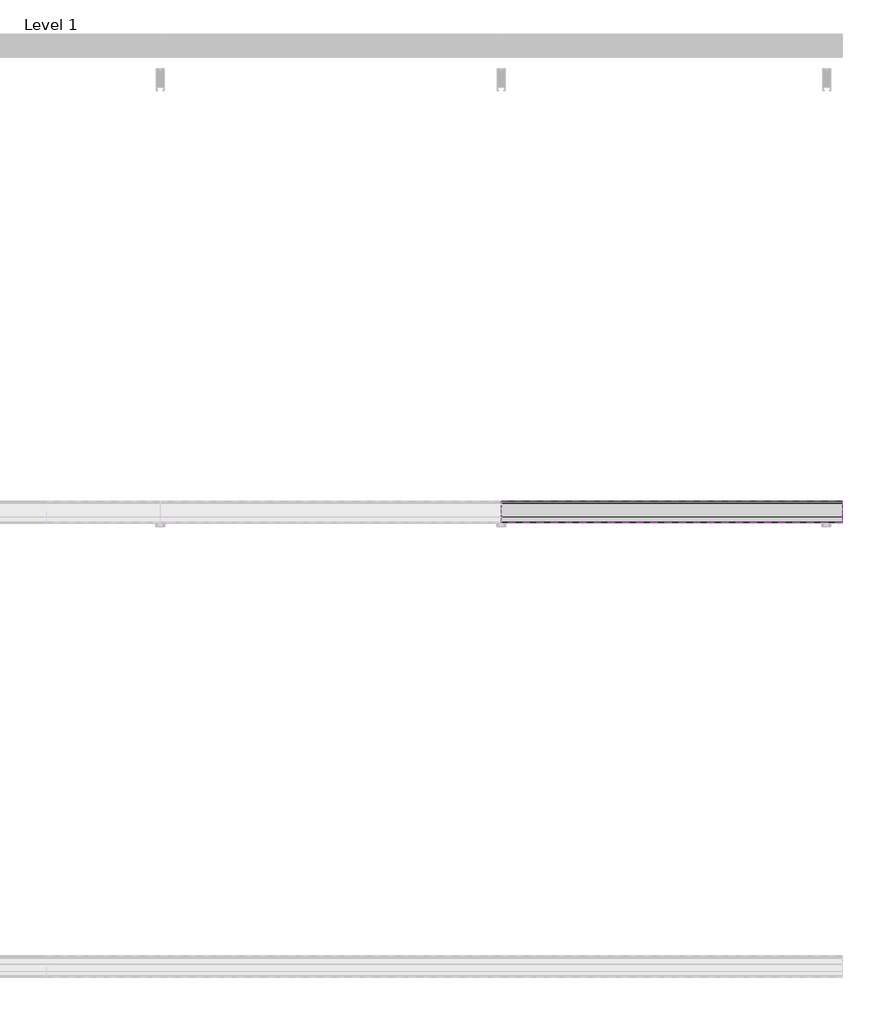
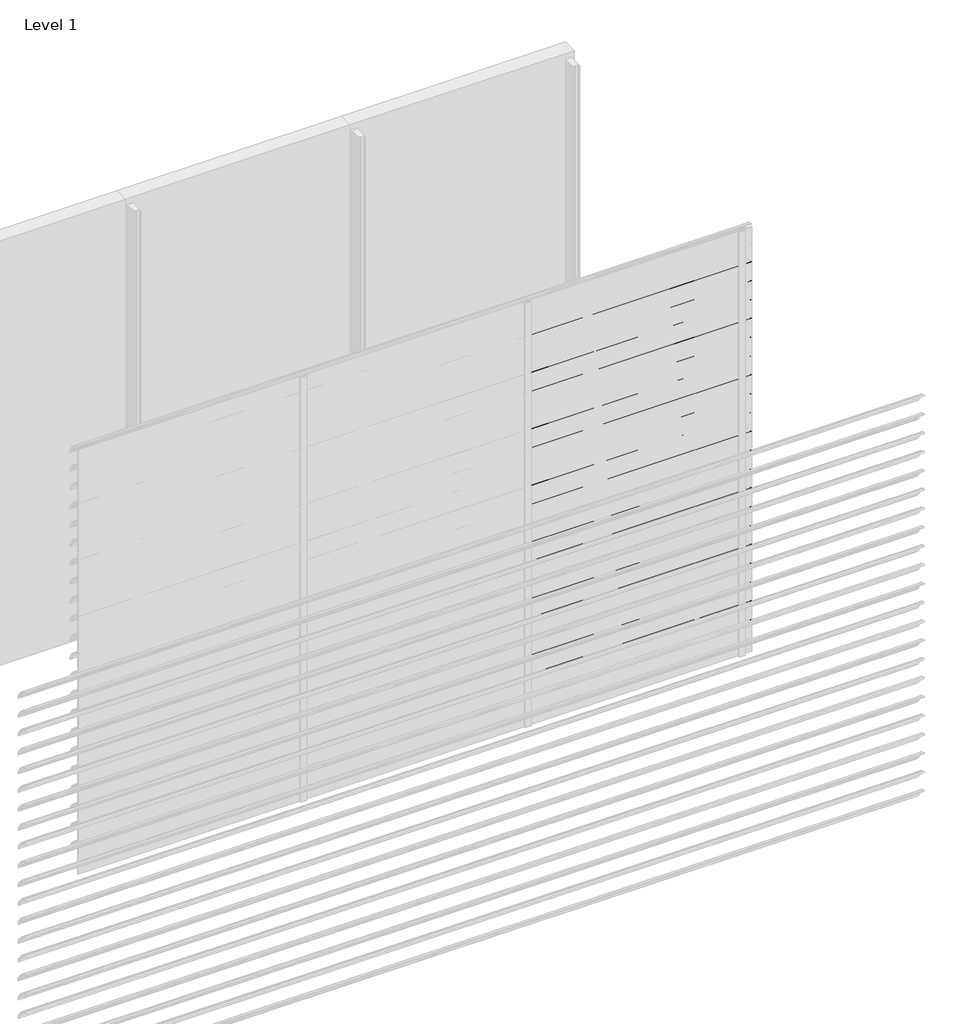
# One storey, part 35 of 57: 20 proxies.
"""IFC4 building model written with IfcOpenShell, lengths in millimetres."""

from ifc_helpers import new_model, si_unit, point, frame, frame_2d, origin, place, context, project, spatial, polyline, circle_curve, trimmed, segment, composite_curve, outline, extrude, element, save

model = new_model("IFC4")

# Units and contexts
model_context = context("Model", 3, world=origin())
ifc_project = project(units=[si_unit("LENGTHUNIT", "METRE", prefix="MILLI")], contexts=[model_context])

# Site, building, storey
site = spatial("IfcSite", under=ifc_project)
building = spatial("IfcBuilding", under=site)
storey = spatial("IfcBuildingStorey", under=building, Name="Level 1", Elevation=0.0)

# Proxies
placement = place(None, origin())
element("IfcBuildingElementProxy", 1, Name="Wall Sweeps", at=placement, inside=storey, context=model_context, shape_type="SweptSolid", body=[
    extrude(outline(composite_curve([segment(trimmed(circle_curve(frame_2d((-23993.7822526, 2750.4913792)), 4.2177474), [point((-23989.6985606, 2751.5462976))], [point((-23993.7822526, 2754.7091266))], False, "CARTESIAN"), True, "CONTINUOUS"), segment(trimmed(circle_curve(frame_2d((-24018.7150834, 2652.2536312)), 105.4456002), [point((-23993.7822526, 2754.7091266))], [point((-23971.7914298, 2746.6832099))], False, "CARTESIAN"), True, "CONTINUOUS"), segment(trimmed(circle_curve(frame_2d((-24061.7199745, 2598.0352476)), 173.7335887), [point((-23971.7914298, 2746.6832099))], [point((-23913.0720121, 2687.9637922))], False, "CARTESIAN"), True, "CONTINUOUS"), segment(trimmed(circle_curve(frame_2d((-24004.9297178, 2636.1860314)), 105.4456002), [point((-23913.0720121, 2687.9637922))], [point((-23903.6249616, 2665.4455765))], False, "CARTESIAN"), True, "CONTINUOUS"), segment(trimmed(circle_curve(frame_2d((-23907.809737, 2664.3307305)), 4.3307305), [point((-23903.6249616, 2665.4455765))], [point((-23909.0769196, 2660.189538))], False, "CARTESIAN"), True, "CONTINUOUS"), segment(polyline([(-23909.0769196, 2660.189538), (-23934.7401984, 2684.9722783)]), True, "CONTINUOUS"), segment(trimmed(circle_curve(frame_2d((-23931.3879574, 2687.2977626)), 4.079877), [point((-23934.7401984, 2684.9722783))], [point((-23930.7310597, 2691.3244091))], False, "CARTESIAN"), True, "CONTINUOUS"), segment(trimmed(circle_curve(frame_2d((-24014.6665585, 2669.2544323)), 86.7885467), [point((-23930.7310597, 2691.3244091))], [point((-23942.3028351, 2717.1683485))], True, "CARTESIAN"), True, "CONTINUOUS"), segment(polyline([(-23942.3028351, 2717.1683485), (-23940.7230099, 2719.9046861)]), True, "CONTINUOUS"), segment(trimmed(circle_curve(frame_2d((-24061.7199745, 2598.0352476)), 171.7335887), [point((-23940.7230099, 2719.9046861))], [point((-23972.7555872, 2744.9289618))], True, "CARTESIAN"), True, "CONTINUOUS"), segment(trimmed(circle_curve(frame_2d((-24018.7150834, 2652.2536312)), 103.4456002), [point((-23972.7555872, 2744.9289618))], [point((-23989.6985606, 2751.5462976))], True, "CARTESIAN"), True, "CONTINUOUS")], self_intersect=False)), frame((4500.0, 0.0, 0.0), z_axis=(1.0, 0.0, 0.0), x_axis=(0.0, 1.0, 0.0)), (0.0, 0.0, 1.0), 1500.0),
])
element("IfcBuildingElementProxy", 2, Name="Wall Sweeps", at=placement, inside=storey, context=model_context, shape_type="SweptSolid", body=[
    extrude(outline(composite_curve([segment(trimmed(circle_curve(frame_2d((-23993.7822526, 2617.4913792)), 4.2177474), [point((-23989.6985606, 2618.5462976))], [point((-23993.7822526, 2621.7091266))], False, "CARTESIAN"), True, "CONTINUOUS"), segment(trimmed(circle_curve(frame_2d((-24018.7150834, 2519.2536312)), 105.4456002), [point((-23993.7822526, 2621.7091266))], [point((-23971.7914298, 2613.6832099))], False, "CARTESIAN"), True, "CONTINUOUS"), segment(trimmed(circle_curve(frame_2d((-24061.7199745, 2465.0352476)), 173.7335887), [point((-23971.7914298, 2613.6832099))], [point((-23913.0720121, 2554.9637922))], False, "CARTESIAN"), True, "CONTINUOUS"), segment(trimmed(circle_curve(frame_2d((-24004.9297178, 2503.1860314)), 105.4456002), [point((-23913.0720121, 2554.9637922))], [point((-23903.6249616, 2532.4455765))], False, "CARTESIAN"), True, "CONTINUOUS"), segment(trimmed(circle_curve(frame_2d((-23907.809737, 2531.3307305)), 4.3307305), [point((-23903.6249616, 2532.4455765))], [point((-23909.0769196, 2527.189538))], False, "CARTESIAN"), True, "CONTINUOUS"), segment(polyline([(-23909.0769196, 2527.189538), (-23934.7401984, 2551.9722783)]), True, "CONTINUOUS"), segment(trimmed(circle_curve(frame_2d((-23931.3879574, 2554.2977626)), 4.079877), [point((-23934.7401984, 2551.9722783))], [point((-23930.7310597, 2558.3244091))], False, "CARTESIAN"), True, "CONTINUOUS"), segment(trimmed(circle_curve(frame_2d((-24014.6665585, 2536.2544323)), 86.7885467), [point((-23930.7310597, 2558.3244091))], [point((-23942.3028351, 2584.1683485))], True, "CARTESIAN"), True, "CONTINUOUS"), segment(polyline([(-23942.3028351, 2584.1683485), (-23940.7230099, 2586.9046861)]), True, "CONTINUOUS"), segment(trimmed(circle_curve(frame_2d((-24061.7199745, 2465.0352476)), 171.7335887), [point((-23940.7230099, 2586.9046861))], [point((-23972.7555872, 2611.9289618))], True, "CARTESIAN"), True, "CONTINUOUS"), segment(trimmed(circle_curve(frame_2d((-24018.7150834, 2519.2536312)), 103.4456002), [point((-23972.7555872, 2611.9289618))], [point((-23989.6985606, 2618.5462976))], True, "CARTESIAN"), True, "CONTINUOUS")], self_intersect=False)), frame((4500.0, 0.0, 0.0), z_axis=(1.0, 0.0, 0.0), x_axis=(0.0, 1.0, 0.0)), (0.0, 0.0, 1.0), 1500.0),
])
element("IfcBuildingElementProxy", 3, Name="Wall Sweeps", at=placement, inside=storey, context=model_context, shape_type="SweptSolid", body=[
    extrude(outline(composite_curve([segment(trimmed(circle_curve(frame_2d((-23993.7822526, 2484.4913792)), 4.2177474), [point((-23989.6985606, 2485.5462976))], [point((-23993.7822526, 2488.7091266))], False, "CARTESIAN"), True, "CONTINUOUS"), segment(trimmed(circle_curve(frame_2d((-24018.7150834, 2386.2536312)), 105.4456002), [point((-23993.7822526, 2488.7091266))], [point((-23971.7914298, 2480.6832099))], False, "CARTESIAN"), True, "CONTINUOUS"), segment(trimmed(circle_curve(frame_2d((-24061.7199745, 2332.0352476)), 173.7335887), [point((-23971.7914298, 2480.6832099))], [point((-23913.0720121, 2421.9637922))], False, "CARTESIAN"), True, "CONTINUOUS"), segment(trimmed(circle_curve(frame_2d((-24004.9297178, 2370.1860314)), 105.4456002), [point((-23913.0720121, 2421.9637922))], [point((-23903.6249616, 2399.4455765))], False, "CARTESIAN"), True, "CONTINUOUS"), segment(trimmed(circle_curve(frame_2d((-23907.809737, 2398.3307305)), 4.3307305), [point((-23903.6249616, 2399.4455765))], [point((-23909.0769196, 2394.189538))], False, "CARTESIAN"), True, "CONTINUOUS"), segment(polyline([(-23909.0769196, 2394.189538), (-23934.7401984, 2418.9722783)]), True, "CONTINUOUS"), segment(trimmed(circle_curve(frame_2d((-23931.3879574, 2421.2977626)), 4.079877), [point((-23934.7401984, 2418.9722783))], [point((-23930.7310597, 2425.3244091))], False, "CARTESIAN"), True, "CONTINUOUS"), segment(trimmed(circle_curve(frame_2d((-24014.6665585, 2403.2544323)), 86.7885467), [point((-23930.7310597, 2425.3244091))], [point((-23942.3028351, 2451.1683485))], True, "CARTESIAN"), True, "CONTINUOUS"), segment(polyline([(-23942.3028351, 2451.1683485), (-23940.7230099, 2453.9046861)]), True, "CONTINUOUS"), segment(trimmed(circle_curve(frame_2d((-24061.7199745, 2332.0352476)), 171.7335887), [point((-23940.7230099, 2453.9046861))], [point((-23972.7555872, 2478.9289618))], True, "CARTESIAN"), True, "CONTINUOUS"), segment(trimmed(circle_curve(frame_2d((-24018.7150834, 2386.2536312)), 103.4456002), [point((-23972.7555872, 2478.9289618))], [point((-23989.6985606, 2485.5462976))], True, "CARTESIAN"), True, "CONTINUOUS")], self_intersect=False)), frame((4500.0, 0.0, 0.0), z_axis=(1.0, 0.0, 0.0), x_axis=(0.0, 1.0, 0.0)), (0.0, 0.0, 1.0), 1500.0),
])
element("IfcBuildingElementProxy", 4, Name="Wall Sweeps", at=placement, inside=storey, context=model_context, shape_type="SweptSolid", body=[
    extrude(outline(composite_curve([segment(trimmed(circle_curve(frame_2d((-23993.7822526, 2351.4913792)), 4.2177474), [point((-23989.6985606, 2352.5462976))], [point((-23993.7822526, 2355.7091266))], False, "CARTESIAN"), True, "CONTINUOUS"), segment(trimmed(circle_curve(frame_2d((-24018.7150834, 2253.2536312)), 105.4456002), [point((-23993.7822526, 2355.7091266))], [point((-23971.7914298, 2347.6832099))], False, "CARTESIAN"), True, "CONTINUOUS"), segment(trimmed(circle_curve(frame_2d((-24061.7199745, 2199.0352476)), 173.7335887), [point((-23971.7914298, 2347.6832099))], [point((-23913.0720121, 2288.9637922))], False, "CARTESIAN"), True, "CONTINUOUS"), segment(trimmed(circle_curve(frame_2d((-24004.9297178, 2237.1860314)), 105.4456002), [point((-23913.0720121, 2288.9637922))], [point((-23903.6249616, 2266.4455765))], False, "CARTESIAN"), True, "CONTINUOUS"), segment(trimmed(circle_curve(frame_2d((-23907.809737, 2265.3307305)), 4.3307305), [point((-23903.6249616, 2266.4455765))], [point((-23909.0769196, 2261.189538))], False, "CARTESIAN"), True, "CONTINUOUS"), segment(polyline([(-23909.0769196, 2261.189538), (-23934.7401984, 2285.9722783)]), True, "CONTINUOUS"), segment(trimmed(circle_curve(frame_2d((-23931.3879574, 2288.2977626)), 4.079877), [point((-23934.7401984, 2285.9722783))], [point((-23930.7310597, 2292.3244091))], False, "CARTESIAN"), True, "CONTINUOUS"), segment(trimmed(circle_curve(frame_2d((-24014.6665585, 2270.2544323)), 86.7885467), [point((-23930.7310597, 2292.3244091))], [point((-23942.3028351, 2318.1683485))], True, "CARTESIAN"), True, "CONTINUOUS"), segment(polyline([(-23942.3028351, 2318.1683485), (-23940.7230099, 2320.9046861)]), True, "CONTINUOUS"), segment(trimmed(circle_curve(frame_2d((-24061.7199745, 2199.0352476)), 171.7335887), [point((-23940.7230099, 2320.9046861))], [point((-23972.7555872, 2345.9289618))], True, "CARTESIAN"), True, "CONTINUOUS"), segment(trimmed(circle_curve(frame_2d((-24018.7150834, 2253.2536312)), 103.4456002), [point((-23972.7555872, 2345.9289618))], [point((-23989.6985606, 2352.5462976))], True, "CARTESIAN"), True, "CONTINUOUS")], self_intersect=False)), frame((4500.0, 0.0, 0.0), z_axis=(1.0, 0.0, 0.0), x_axis=(0.0, 1.0, 0.0)), (0.0, 0.0, 1.0), 1500.0),
])
element("IfcBuildingElementProxy", 5, Name="Wall Sweeps", at=placement, inside=storey, context=model_context, shape_type="SweptSolid", body=[
    extrude(outline(composite_curve([segment(trimmed(circle_curve(frame_2d((-23993.7822526, 2218.4913792)), 4.2177474), [point((-23989.6985606, 2219.5462976))], [point((-23993.7822526, 2222.7091266))], False, "CARTESIAN"), True, "CONTINUOUS"), segment(trimmed(circle_curve(frame_2d((-24018.7150834, 2120.2536312)), 105.4456002), [point((-23993.7822526, 2222.7091266))], [point((-23971.7914298, 2214.6832099))], False, "CARTESIAN"), True, "CONTINUOUS"), segment(trimmed(circle_curve(frame_2d((-24061.7199745, 2066.0352476)), 173.7335887), [point((-23971.7914298, 2214.6832099))], [point((-23913.0720121, 2155.9637922))], False, "CARTESIAN"), True, "CONTINUOUS"), segment(trimmed(circle_curve(frame_2d((-24004.9297178, 2104.1860314)), 105.4456002), [point((-23913.0720121, 2155.9637922))], [point((-23903.6249616, 2133.4455765))], False, "CARTESIAN"), True, "CONTINUOUS"), segment(trimmed(circle_curve(frame_2d((-23907.809737, 2132.3307305)), 4.3307305), [point((-23903.6249616, 2133.4455765))], [point((-23909.0769196, 2128.189538))], False, "CARTESIAN"), True, "CONTINUOUS"), segment(polyline([(-23909.0769196, 2128.189538), (-23934.7401984, 2152.9722783)]), True, "CONTINUOUS"), segment(trimmed(circle_curve(frame_2d((-23931.3879574, 2155.2977626)), 4.079877), [point((-23934.7401984, 2152.9722783))], [point((-23930.7310597, 2159.3244091))], False, "CARTESIAN"), True, "CONTINUOUS"), segment(trimmed(circle_curve(frame_2d((-24014.6665585, 2137.2544323)), 86.7885467), [point((-23930.7310597, 2159.3244091))], [point((-23942.3028351, 2185.1683485))], True, "CARTESIAN"), True, "CONTINUOUS"), segment(polyline([(-23942.3028351, 2185.1683485), (-23940.7230099, 2187.9046861)]), True, "CONTINUOUS"), segment(trimmed(circle_curve(frame_2d((-24061.7199745, 2066.0352476)), 171.7335887), [point((-23940.7230099, 2187.9046861))], [point((-23972.7555872, 2212.9289618))], True, "CARTESIAN"), True, "CONTINUOUS"), segment(trimmed(circle_curve(frame_2d((-24018.7150834, 2120.2536312)), 103.4456002), [point((-23972.7555872, 2212.9289618))], [point((-23989.6985606, 2219.5462976))], True, "CARTESIAN"), True, "CONTINUOUS")], self_intersect=False)), frame((4500.0, 0.0, 0.0), z_axis=(1.0, 0.0, 0.0), x_axis=(0.0, 1.0, 0.0)), (0.0, 0.0, 1.0), 1500.0),
])
element("IfcBuildingElementProxy", 6, Name="Wall Sweeps", at=placement, inside=storey, context=model_context, shape_type="SweptSolid", body=[
    extrude(outline(composite_curve([segment(trimmed(circle_curve(frame_2d((-23993.7822526, 2085.4913792)), 4.2177474), [point((-23989.6985606, 2086.5462976))], [point((-23993.7822526, 2089.7091266))], False, "CARTESIAN"), True, "CONTINUOUS"), segment(trimmed(circle_curve(frame_2d((-24018.7150834, 1987.2536312)), 105.4456002), [point((-23993.7822526, 2089.7091266))], [point((-23971.7914298, 2081.6832099))], False, "CARTESIAN"), True, "CONTINUOUS"), segment(trimmed(circle_curve(frame_2d((-24061.7199745, 1933.0352476)), 173.7335887), [point((-23971.7914298, 2081.6832099))], [point((-23913.0720121, 2022.9637922))], False, "CARTESIAN"), True, "CONTINUOUS"), segment(trimmed(circle_curve(frame_2d((-24004.9297178, 1971.1860314)), 105.4456002), [point((-23913.0720121, 2022.9637922))], [point((-23903.6249616, 2000.4455765))], False, "CARTESIAN"), True, "CONTINUOUS"), segment(trimmed(circle_curve(frame_2d((-23907.809737, 1999.3307305)), 4.3307305), [point((-23903.6249616, 2000.4455765))], [point((-23909.0769196, 1995.189538))], False, "CARTESIAN"), True, "CONTINUOUS"), segment(polyline([(-23909.0769196, 1995.189538), (-23934.7401984, 2019.9722783)]), True, "CONTINUOUS"), segment(trimmed(circle_curve(frame_2d((-23931.3879574, 2022.2977626)), 4.079877), [point((-23934.7401984, 2019.9722783))], [point((-23930.7310597, 2026.3244091))], False, "CARTESIAN"), True, "CONTINUOUS"), segment(trimmed(circle_curve(frame_2d((-24014.6665585, 2004.2544323)), 86.7885467), [point((-23930.7310597, 2026.3244091))], [point((-23942.3028351, 2052.1683485))], True, "CARTESIAN"), True, "CONTINUOUS"), segment(polyline([(-23942.3028351, 2052.1683485), (-23940.7230099, 2054.9046861)]), True, "CONTINUOUS"), segment(trimmed(circle_curve(frame_2d((-24061.7199745, 1933.0352476)), 171.7335887), [point((-23940.7230099, 2054.9046861))], [point((-23972.7555872, 2079.9289618))], True, "CARTESIAN"), True, "CONTINUOUS"), segment(trimmed(circle_curve(frame_2d((-24018.7150834, 1987.2536312)), 103.4456002), [point((-23972.7555872, 2079.9289618))], [point((-23989.6985606, 2086.5462976))], True, "CARTESIAN"), True, "CONTINUOUS")], self_intersect=False)), frame((4500.0, 0.0, 0.0), z_axis=(1.0, 0.0, 0.0), x_axis=(0.0, 1.0, 0.0)), (0.0, 0.0, 1.0), 1500.0),
])
element("IfcBuildingElementProxy", 7, Name="Wall Sweeps", at=placement, inside=storey, context=model_context, shape_type="SweptSolid", body=[
    extrude(outline(composite_curve([segment(trimmed(circle_curve(frame_2d((-23993.7822526, 1952.4913792)), 4.2177474), [point((-23989.6985606, 1953.5462976))], [point((-23993.7822526, 1956.7091266))], False, "CARTESIAN"), True, "CONTINUOUS"), segment(trimmed(circle_curve(frame_2d((-24018.7150834, 1854.2536312)), 105.4456002), [point((-23993.7822526, 1956.7091266))], [point((-23971.7914298, 1948.6832099))], False, "CARTESIAN"), True, "CONTINUOUS"), segment(trimmed(circle_curve(frame_2d((-24061.7199745, 1800.0352476)), 173.7335887), [point((-23971.7914298, 1948.6832099))], [point((-23913.0720121, 1889.9637922))], False, "CARTESIAN"), True, "CONTINUOUS"), segment(trimmed(circle_curve(frame_2d((-24004.9297178, 1838.1860314)), 105.4456002), [point((-23913.0720121, 1889.9637922))], [point((-23903.6249616, 1867.4455765))], False, "CARTESIAN"), True, "CONTINUOUS"), segment(trimmed(circle_curve(frame_2d((-23907.809737, 1866.3307305)), 4.3307305), [point((-23903.6249616, 1867.4455765))], [point((-23909.0769196, 1862.189538))], False, "CARTESIAN"), True, "CONTINUOUS"), segment(polyline([(-23909.0769196, 1862.189538), (-23934.7401984, 1886.9722783)]), True, "CONTINUOUS"), segment(trimmed(circle_curve(frame_2d((-23931.3879574, 1889.2977626)), 4.079877), [point((-23934.7401984, 1886.9722783))], [point((-23930.7310597, 1893.3244091))], False, "CARTESIAN"), True, "CONTINUOUS"), segment(trimmed(circle_curve(frame_2d((-24014.6665585, 1871.2544323)), 86.7885467), [point((-23930.7310597, 1893.3244091))], [point((-23942.3028351, 1919.1683485))], True, "CARTESIAN"), True, "CONTINUOUS"), segment(polyline([(-23942.3028351, 1919.1683485), (-23940.7230099, 1921.9046861)]), True, "CONTINUOUS"), segment(trimmed(circle_curve(frame_2d((-24061.7199745, 1800.0352476)), 171.7335887), [point((-23940.7230099, 1921.9046861))], [point((-23972.7555872, 1946.9289618))], True, "CARTESIAN"), True, "CONTINUOUS"), segment(trimmed(circle_curve(frame_2d((-24018.7150834, 1854.2536312)), 103.4456002), [point((-23972.7555872, 1946.9289618))], [point((-23989.6985606, 1953.5462976))], True, "CARTESIAN"), True, "CONTINUOUS")], self_intersect=False)), frame((4500.0, 0.0, 0.0), z_axis=(1.0, 0.0, 0.0), x_axis=(0.0, 1.0, 0.0)), (0.0, 0.0, 1.0), 1500.0),
])
element("IfcBuildingElementProxy", 8, Name="Wall Sweeps", at=placement, inside=storey, context=model_context, shape_type="SweptSolid", body=[
    extrude(outline(composite_curve([segment(trimmed(circle_curve(frame_2d((-23993.7822526, 1819.4913792)), 4.2177474), [point((-23989.6985606, 1820.5462976))], [point((-23993.7822526, 1823.7091266))], False, "CARTESIAN"), True, "CONTINUOUS"), segment(trimmed(circle_curve(frame_2d((-24018.7150834, 1721.2536312)), 105.4456002), [point((-23993.7822526, 1823.7091266))], [point((-23971.7914298, 1815.6832099))], False, "CARTESIAN"), True, "CONTINUOUS"), segment(trimmed(circle_curve(frame_2d((-24061.7199745, 1667.0352476)), 173.7335887), [point((-23971.7914298, 1815.6832099))], [point((-23913.0720121, 1756.9637922))], False, "CARTESIAN"), True, "CONTINUOUS"), segment(trimmed(circle_curve(frame_2d((-24004.9297178, 1705.1860314)), 105.4456002), [point((-23913.0720121, 1756.9637922))], [point((-23903.6249616, 1734.4455765))], False, "CARTESIAN"), True, "CONTINUOUS"), segment(trimmed(circle_curve(frame_2d((-23907.809737, 1733.3307305)), 4.3307305), [point((-23903.6249616, 1734.4455765))], [point((-23909.0769196, 1729.189538))], False, "CARTESIAN"), True, "CONTINUOUS"), segment(polyline([(-23909.0769196, 1729.189538), (-23934.7401984, 1753.9722783)]), True, "CONTINUOUS"), segment(trimmed(circle_curve(frame_2d((-23931.3879574, 1756.2977626)), 4.079877), [point((-23934.7401984, 1753.9722783))], [point((-23930.7310597, 1760.3244091))], False, "CARTESIAN"), True, "CONTINUOUS"), segment(trimmed(circle_curve(frame_2d((-24014.6665585, 1738.2544323)), 86.7885467), [point((-23930.7310597, 1760.3244091))], [point((-23942.3028351, 1786.1683485))], True, "CARTESIAN"), True, "CONTINUOUS"), segment(polyline([(-23942.3028351, 1786.1683485), (-23940.7230099, 1788.9046861)]), True, "CONTINUOUS"), segment(trimmed(circle_curve(frame_2d((-24061.7199745, 1667.0352476)), 171.7335887), [point((-23940.7230099, 1788.9046861))], [point((-23972.7555872, 1813.9289618))], True, "CARTESIAN"), True, "CONTINUOUS"), segment(trimmed(circle_curve(frame_2d((-24018.7150834, 1721.2536312)), 103.4456002), [point((-23972.7555872, 1813.9289618))], [point((-23989.6985606, 1820.5462976))], True, "CARTESIAN"), True, "CONTINUOUS")], self_intersect=False)), frame((4500.0, 0.0, 0.0), z_axis=(1.0, 0.0, 0.0), x_axis=(0.0, 1.0, 0.0)), (0.0, 0.0, 1.0), 1500.0),
])
element("IfcBuildingElementProxy", 9, Name="Wall Sweeps", at=placement, inside=storey, context=model_context, shape_type="SweptSolid", body=[
    extrude(outline(composite_curve([segment(trimmed(circle_curve(frame_2d((-23993.7822526, 1686.4913792)), 4.2177474), [point((-23989.6985606, 1687.5462976))], [point((-23993.7822526, 1690.7091266))], False, "CARTESIAN"), True, "CONTINUOUS"), segment(trimmed(circle_curve(frame_2d((-24018.7150834, 1588.2536312)), 105.4456002), [point((-23993.7822526, 1690.7091266))], [point((-23971.7914298, 1682.6832099))], False, "CARTESIAN"), True, "CONTINUOUS"), segment(trimmed(circle_curve(frame_2d((-24061.7199745, 1534.0352476)), 173.7335887), [point((-23971.7914298, 1682.6832099))], [point((-23913.0720121, 1623.9637922))], False, "CARTESIAN"), True, "CONTINUOUS"), segment(trimmed(circle_curve(frame_2d((-24004.9297178, 1572.1860314)), 105.4456002), [point((-23913.0720121, 1623.9637922))], [point((-23903.6249616, 1601.4455765))], False, "CARTESIAN"), True, "CONTINUOUS"), segment(trimmed(circle_curve(frame_2d((-23907.809737, 1600.3307305)), 4.3307305), [point((-23903.6249616, 1601.4455765))], [point((-23909.0769196, 1596.189538))], False, "CARTESIAN"), True, "CONTINUOUS"), segment(polyline([(-23909.0769196, 1596.189538), (-23934.7401984, 1620.9722783)]), True, "CONTINUOUS"), segment(trimmed(circle_curve(frame_2d((-23931.3879574, 1623.2977626)), 4.079877), [point((-23934.7401984, 1620.9722783))], [point((-23930.7310597, 1627.3244091))], False, "CARTESIAN"), True, "CONTINUOUS"), segment(trimmed(circle_curve(frame_2d((-24014.6665585, 1605.2544323)), 86.7885467), [point((-23930.7310597, 1627.3244091))], [point((-23942.3028351, 1653.1683485))], True, "CARTESIAN"), True, "CONTINUOUS"), segment(polyline([(-23942.3028351, 1653.1683485), (-23940.7230099, 1655.9046861)]), True, "CONTINUOUS"), segment(trimmed(circle_curve(frame_2d((-24061.7199745, 1534.0352476)), 171.7335887), [point((-23940.7230099, 1655.9046861))], [point((-23972.7555872, 1680.9289618))], True, "CARTESIAN"), True, "CONTINUOUS"), segment(trimmed(circle_curve(frame_2d((-24018.7150834, 1588.2536312)), 103.4456002), [point((-23972.7555872, 1680.9289618))], [point((-23989.6985606, 1687.5462976))], True, "CARTESIAN"), True, "CONTINUOUS")], self_intersect=False)), frame((4500.0, 0.0, 0.0), z_axis=(1.0, 0.0, 0.0), x_axis=(0.0, 1.0, 0.0)), (0.0, 0.0, 1.0), 1500.0),
])
element("IfcBuildingElementProxy", 10, Name="Wall Sweeps", at=placement, inside=storey, context=model_context, shape_type="SweptSolid", body=[
    extrude(outline(composite_curve([segment(trimmed(circle_curve(frame_2d((-23993.7822526, 1553.4913792)), 4.2177474), [point((-23989.6985606, 1554.5462976))], [point((-23993.7822526, 1557.7091266))], False, "CARTESIAN"), True, "CONTINUOUS"), segment(trimmed(circle_curve(frame_2d((-24018.7150834, 1455.2536312)), 105.4456002), [point((-23993.7822526, 1557.7091266))], [point((-23971.7914298, 1549.6832099))], False, "CARTESIAN"), True, "CONTINUOUS"), segment(trimmed(circle_curve(frame_2d((-24061.7199745, 1401.0352476)), 173.7335887), [point((-23971.7914298, 1549.6832099))], [point((-23913.0720121, 1490.9637922))], False, "CARTESIAN"), True, "CONTINUOUS"), segment(trimmed(circle_curve(frame_2d((-24004.9297178, 1439.1860314)), 105.4456002), [point((-23913.0720121, 1490.9637922))], [point((-23903.6249616, 1468.4455765))], False, "CARTESIAN"), True, "CONTINUOUS"), segment(trimmed(circle_curve(frame_2d((-23907.809737, 1467.3307305)), 4.3307305), [point((-23903.6249616, 1468.4455765))], [point((-23909.0769196, 1463.189538))], False, "CARTESIAN"), True, "CONTINUOUS"), segment(polyline([(-23909.0769196, 1463.189538), (-23934.7401984, 1487.9722783)]), True, "CONTINUOUS"), segment(trimmed(circle_curve(frame_2d((-23931.3879574, 1490.2977626)), 4.079877), [point((-23934.7401984, 1487.9722783))], [point((-23930.7310597, 1494.3244091))], False, "CARTESIAN"), True, "CONTINUOUS"), segment(trimmed(circle_curve(frame_2d((-24014.6665585, 1472.2544323)), 86.7885467), [point((-23930.7310597, 1494.3244091))], [point((-23942.3028351, 1520.1683485))], True, "CARTESIAN"), True, "CONTINUOUS"), segment(polyline([(-23942.3028351, 1520.1683485), (-23940.7230099, 1522.9046861)]), True, "CONTINUOUS"), segment(trimmed(circle_curve(frame_2d((-24061.7199745, 1401.0352476)), 171.7335887), [point((-23940.7230099, 1522.9046861))], [point((-23972.7555872, 1547.9289618))], True, "CARTESIAN"), True, "CONTINUOUS"), segment(trimmed(circle_curve(frame_2d((-24018.7150834, 1455.2536312)), 103.4456002), [point((-23972.7555872, 1547.9289618))], [point((-23989.6985606, 1554.5462976))], True, "CARTESIAN"), True, "CONTINUOUS")], self_intersect=False)), frame((4500.0, 0.0, 0.0), z_axis=(1.0, 0.0, 0.0), x_axis=(0.0, 1.0, 0.0)), (0.0, 0.0, 1.0), 1500.0),
])
element("IfcBuildingElementProxy", 11, Name="Wall Sweeps", at=placement, inside=storey, context=model_context, shape_type="SweptSolid", body=[
    extrude(outline(composite_curve([segment(trimmed(circle_curve(frame_2d((-23993.7822526, 1420.4913792)), 4.2177474), [point((-23989.6985606, 1421.5462976))], [point((-23993.7822526, 1424.7091266))], False, "CARTESIAN"), True, "CONTINUOUS"), segment(trimmed(circle_curve(frame_2d((-24018.7150834, 1322.2536312)), 105.4456002), [point((-23993.7822526, 1424.7091266))], [point((-23971.7914298, 1416.6832099))], False, "CARTESIAN"), True, "CONTINUOUS"), segment(trimmed(circle_curve(frame_2d((-24061.7199745, 1268.0352476)), 173.7335887), [point((-23971.7914298, 1416.6832099))], [point((-23913.0720121, 1357.9637922))], False, "CARTESIAN"), True, "CONTINUOUS"), segment(trimmed(circle_curve(frame_2d((-24004.9297178, 1306.1860314)), 105.4456002), [point((-23913.0720121, 1357.9637922))], [point((-23903.6249616, 1335.4455765))], False, "CARTESIAN"), True, "CONTINUOUS"), segment(trimmed(circle_curve(frame_2d((-23907.809737, 1334.3307305)), 4.3307305), [point((-23903.6249616, 1335.4455765))], [point((-23909.0769196, 1330.189538))], False, "CARTESIAN"), True, "CONTINUOUS"), segment(polyline([(-23909.0769196, 1330.189538), (-23934.7401984, 1354.9722783)]), True, "CONTINUOUS"), segment(trimmed(circle_curve(frame_2d((-23931.3879574, 1357.2977626)), 4.079877), [point((-23934.7401984, 1354.9722783))], [point((-23930.7310597, 1361.3244091))], False, "CARTESIAN"), True, "CONTINUOUS"), segment(trimmed(circle_curve(frame_2d((-24014.6665585, 1339.2544323)), 86.7885467), [point((-23930.7310597, 1361.3244091))], [point((-23942.3028351, 1387.1683485))], True, "CARTESIAN"), True, "CONTINUOUS"), segment(polyline([(-23942.3028351, 1387.1683485), (-23940.7230099, 1389.9046861)]), True, "CONTINUOUS"), segment(trimmed(circle_curve(frame_2d((-24061.7199745, 1268.0352476)), 171.7335887), [point((-23940.7230099, 1389.9046861))], [point((-23972.7555872, 1414.9289618))], True, "CARTESIAN"), True, "CONTINUOUS"), segment(trimmed(circle_curve(frame_2d((-24018.7150834, 1322.2536312)), 103.4456002), [point((-23972.7555872, 1414.9289618))], [point((-23989.6985606, 1421.5462976))], True, "CARTESIAN"), True, "CONTINUOUS")], self_intersect=False)), frame((4500.0, 0.0, 0.0), z_axis=(1.0, 0.0, 0.0), x_axis=(0.0, 1.0, 0.0)), (0.0, 0.0, 1.0), 1500.0),
])
element("IfcBuildingElementProxy", 12, Name="Wall Sweeps", at=placement, inside=storey, context=model_context, shape_type="SweptSolid", body=[
    extrude(outline(composite_curve([segment(trimmed(circle_curve(frame_2d((-23993.7822526, 1287.4913792)), 4.2177474), [point((-23989.6985606, 1288.5462976))], [point((-23993.7822526, 1291.7091266))], False, "CARTESIAN"), True, "CONTINUOUS"), segment(trimmed(circle_curve(frame_2d((-24018.7150834, 1189.2536312)), 105.4456002), [point((-23993.7822526, 1291.7091266))], [point((-23971.7914298, 1283.6832099))], False, "CARTESIAN"), True, "CONTINUOUS"), segment(trimmed(circle_curve(frame_2d((-24061.7199745, 1135.0352476)), 173.7335887), [point((-23971.7914298, 1283.6832099))], [point((-23913.0720121, 1224.9637922))], False, "CARTESIAN"), True, "CONTINUOUS"), segment(trimmed(circle_curve(frame_2d((-24004.9297178, 1173.1860314)), 105.4456002), [point((-23913.0720121, 1224.9637922))], [point((-23903.6249616, 1202.4455765))], False, "CARTESIAN"), True, "CONTINUOUS"), segment(trimmed(circle_curve(frame_2d((-23907.809737, 1201.3307305)), 4.3307305), [point((-23903.6249616, 1202.4455765))], [point((-23909.0769196, 1197.189538))], False, "CARTESIAN"), True, "CONTINUOUS"), segment(polyline([(-23909.0769196, 1197.189538), (-23934.7401984, 1221.9722783)]), True, "CONTINUOUS"), segment(trimmed(circle_curve(frame_2d((-23931.3879574, 1224.2977626)), 4.079877), [point((-23934.7401984, 1221.9722783))], [point((-23930.7310597, 1228.3244091))], False, "CARTESIAN"), True, "CONTINUOUS"), segment(trimmed(circle_curve(frame_2d((-24014.6665585, 1206.2544323)), 86.7885467), [point((-23930.7310597, 1228.3244091))], [point((-23942.3028351, 1254.1683485))], True, "CARTESIAN"), True, "CONTINUOUS"), segment(polyline([(-23942.3028351, 1254.1683485), (-23940.7230099, 1256.9046861)]), True, "CONTINUOUS"), segment(trimmed(circle_curve(frame_2d((-24061.7199745, 1135.0352476)), 171.7335887), [point((-23940.7230099, 1256.9046861))], [point((-23972.7555872, 1281.9289618))], True, "CARTESIAN"), True, "CONTINUOUS"), segment(trimmed(circle_curve(frame_2d((-24018.7150834, 1189.2536312)), 103.4456002), [point((-23972.7555872, 1281.9289618))], [point((-23989.6985606, 1288.5462976))], True, "CARTESIAN"), True, "CONTINUOUS")], self_intersect=False)), frame((4500.0, 0.0, 0.0), z_axis=(1.0, 0.0, 0.0), x_axis=(0.0, 1.0, 0.0)), (0.0, 0.0, 1.0), 1500.0),
])
element("IfcBuildingElementProxy", 13, Name="Wall Sweeps", at=placement, inside=storey, context=model_context, shape_type="SweptSolid", body=[
    extrude(outline(composite_curve([segment(trimmed(circle_curve(frame_2d((-23993.7822526, 1154.4913792)), 4.2177474), [point((-23989.6985606, 1155.5462976))], [point((-23993.7822526, 1158.7091266))], False, "CARTESIAN"), True, "CONTINUOUS"), segment(trimmed(circle_curve(frame_2d((-24018.7150834, 1056.2536312)), 105.4456002), [point((-23993.7822526, 1158.7091266))], [point((-23971.7914298, 1150.6832099))], False, "CARTESIAN"), True, "CONTINUOUS"), segment(trimmed(circle_curve(frame_2d((-24061.7199745, 1002.0352476)), 173.7335887), [point((-23971.7914298, 1150.6832099))], [point((-23913.0720121, 1091.9637922))], False, "CARTESIAN"), True, "CONTINUOUS"), segment(trimmed(circle_curve(frame_2d((-24004.9297178, 1040.1860314)), 105.4456002), [point((-23913.0720121, 1091.9637922))], [point((-23903.6249616, 1069.4455765))], False, "CARTESIAN"), True, "CONTINUOUS"), segment(trimmed(circle_curve(frame_2d((-23907.809737, 1068.3307305)), 4.3307305), [point((-23903.6249616, 1069.4455765))], [point((-23909.0769196, 1064.189538))], False, "CARTESIAN"), True, "CONTINUOUS"), segment(polyline([(-23909.0769196, 1064.189538), (-23934.7401984, 1088.9722783)]), True, "CONTINUOUS"), segment(trimmed(circle_curve(frame_2d((-23931.3879574, 1091.2977626)), 4.079877), [point((-23934.7401984, 1088.9722783))], [point((-23930.7310597, 1095.3244091))], False, "CARTESIAN"), True, "CONTINUOUS"), segment(trimmed(circle_curve(frame_2d((-24014.6665585, 1073.2544323)), 86.7885467), [point((-23930.7310597, 1095.3244091))], [point((-23942.3028351, 1121.1683485))], True, "CARTESIAN"), True, "CONTINUOUS"), segment(polyline([(-23942.3028351, 1121.1683485), (-23940.7230099, 1123.9046861)]), True, "CONTINUOUS"), segment(trimmed(circle_curve(frame_2d((-24061.7199745, 1002.0352476)), 171.7335887), [point((-23940.7230099, 1123.9046861))], [point((-23972.7555872, 1148.9289618))], True, "CARTESIAN"), True, "CONTINUOUS"), segment(trimmed(circle_curve(frame_2d((-24018.7150834, 1056.2536312)), 103.4456002), [point((-23972.7555872, 1148.9289618))], [point((-23989.6985606, 1155.5462976))], True, "CARTESIAN"), True, "CONTINUOUS")], self_intersect=False)), frame((4500.0, 0.0, 0.0), z_axis=(1.0, 0.0, 0.0), x_axis=(0.0, 1.0, 0.0)), (0.0, 0.0, 1.0), 1500.0),
])
element("IfcBuildingElementProxy", 14, Name="Wall Sweeps", at=placement, inside=storey, context=model_context, shape_type="SweptSolid", body=[
    extrude(outline(composite_curve([segment(trimmed(circle_curve(frame_2d((-23993.7822526, 1021.4913792)), 4.2177474), [point((-23989.6985606, 1022.5462976))], [point((-23993.7822526, 1025.7091266))], False, "CARTESIAN"), True, "CONTINUOUS"), segment(trimmed(circle_curve(frame_2d((-24018.7150834, 923.2536312)), 105.4456002), [point((-23993.7822526, 1025.7091266))], [point((-23971.7914298, 1017.6832099))], False, "CARTESIAN"), True, "CONTINUOUS"), segment(trimmed(circle_curve(frame_2d((-24061.7199745, 869.0352476)), 173.7335887), [point((-23971.7914298, 1017.6832099))], [point((-23913.0720121, 958.9637922))], False, "CARTESIAN"), True, "CONTINUOUS"), segment(trimmed(circle_curve(frame_2d((-24004.9297178, 907.1860314)), 105.4456002), [point((-23913.0720121, 958.9637922))], [point((-23903.6249616, 936.4455765))], False, "CARTESIAN"), True, "CONTINUOUS"), segment(trimmed(circle_curve(frame_2d((-23907.809737, 935.3307305)), 4.3307305), [point((-23903.6249616, 936.4455765))], [point((-23909.0769196, 931.189538))], False, "CARTESIAN"), True, "CONTINUOUS"), segment(polyline([(-23909.0769196, 931.189538), (-23934.7401984, 955.9722783)]), True, "CONTINUOUS"), segment(trimmed(circle_curve(frame_2d((-23931.3879574, 958.2977626)), 4.079877), [point((-23934.7401984, 955.9722783))], [point((-23930.7310597, 962.3244091))], False, "CARTESIAN"), True, "CONTINUOUS"), segment(trimmed(circle_curve(frame_2d((-24014.6665585, 940.2544323)), 86.7885467), [point((-23930.7310597, 962.3244091))], [point((-23942.3028351, 988.1683485))], True, "CARTESIAN"), True, "CONTINUOUS"), segment(polyline([(-23942.3028351, 988.1683485), (-23940.7230099, 990.9046861)]), True, "CONTINUOUS"), segment(trimmed(circle_curve(frame_2d((-24061.7199745, 869.0352476)), 171.7335887), [point((-23940.7230099, 990.9046861))], [point((-23972.7555872, 1015.9289618))], True, "CARTESIAN"), True, "CONTINUOUS"), segment(trimmed(circle_curve(frame_2d((-24018.7150834, 923.2536312)), 103.4456002), [point((-23972.7555872, 1015.9289618))], [point((-23989.6985606, 1022.5462976))], True, "CARTESIAN"), True, "CONTINUOUS")], self_intersect=False)), frame((4500.0, 0.0, 0.0), z_axis=(1.0, 0.0, 0.0), x_axis=(0.0, 1.0, 0.0)), (0.0, 0.0, 1.0), 1500.0),
])
element("IfcBuildingElementProxy", 15, Name="Wall Sweeps", at=placement, inside=storey, context=model_context, shape_type="SweptSolid", body=[
    extrude(outline(composite_curve([segment(trimmed(circle_curve(frame_2d((-23993.7822526, 888.4913792)), 4.2177474), [point((-23989.6985606, 889.5462976))], [point((-23993.7822526, 892.7091266))], False, "CARTESIAN"), True, "CONTINUOUS"), segment(trimmed(circle_curve(frame_2d((-24018.7150834, 790.2536312)), 105.4456002), [point((-23993.7822526, 892.7091266))], [point((-23971.7914298, 884.6832099))], False, "CARTESIAN"), True, "CONTINUOUS"), segment(trimmed(circle_curve(frame_2d((-24061.7199745, 736.0352476)), 173.7335887), [point((-23971.7914298, 884.6832099))], [point((-23913.0720121, 825.9637922))], False, "CARTESIAN"), True, "CONTINUOUS"), segment(trimmed(circle_curve(frame_2d((-24004.9297178, 774.1860314)), 105.4456002), [point((-23913.0720121, 825.9637922))], [point((-23903.6249616, 803.4455765))], False, "CARTESIAN"), True, "CONTINUOUS"), segment(trimmed(circle_curve(frame_2d((-23907.809737, 802.3307305)), 4.3307305), [point((-23903.6249616, 803.4455765))], [point((-23909.0769196, 798.189538))], False, "CARTESIAN"), True, "CONTINUOUS"), segment(polyline([(-23909.0769196, 798.189538), (-23934.7401984, 822.9722783)]), True, "CONTINUOUS"), segment(trimmed(circle_curve(frame_2d((-23931.3879574, 825.2977626)), 4.079877), [point((-23934.7401984, 822.9722783))], [point((-23930.7310597, 829.3244091))], False, "CARTESIAN"), True, "CONTINUOUS"), segment(trimmed(circle_curve(frame_2d((-24014.6665585, 807.2544323)), 86.7885467), [point((-23930.7310597, 829.3244091))], [point((-23942.3028351, 855.1683485))], True, "CARTESIAN"), True, "CONTINUOUS"), segment(polyline([(-23942.3028351, 855.1683485), (-23940.7230099, 857.9046861)]), True, "CONTINUOUS"), segment(trimmed(circle_curve(frame_2d((-24061.7199745, 736.0352476)), 171.7335887), [point((-23940.7230099, 857.9046861))], [point((-23972.7555872, 882.9289618))], True, "CARTESIAN"), True, "CONTINUOUS"), segment(trimmed(circle_curve(frame_2d((-24018.7150834, 790.2536312)), 103.4456002), [point((-23972.7555872, 882.9289618))], [point((-23989.6985606, 889.5462976))], True, "CARTESIAN"), True, "CONTINUOUS")], self_intersect=False)), frame((4500.0, 0.0, 0.0), z_axis=(1.0, 0.0, 0.0), x_axis=(0.0, 1.0, 0.0)), (0.0, 0.0, 1.0), 1500.0),
])
element("IfcBuildingElementProxy", 16, Name="Wall Sweeps", at=placement, inside=storey, context=model_context, shape_type="SweptSolid", body=[
    extrude(outline(composite_curve([segment(trimmed(circle_curve(frame_2d((-23993.7822526, 755.4913792)), 4.2177474), [point((-23989.6985606, 756.5462976))], [point((-23993.7822526, 759.7091266))], False, "CARTESIAN"), True, "CONTINUOUS"), segment(trimmed(circle_curve(frame_2d((-24018.7150834, 657.2536312)), 105.4456002), [point((-23993.7822526, 759.7091266))], [point((-23971.7914298, 751.6832099))], False, "CARTESIAN"), True, "CONTINUOUS"), segment(trimmed(circle_curve(frame_2d((-24061.7199745, 603.0352476)), 173.7335887), [point((-23971.7914298, 751.6832099))], [point((-23913.0720121, 692.9637922))], False, "CARTESIAN"), True, "CONTINUOUS"), segment(trimmed(circle_curve(frame_2d((-24004.9297178, 641.1860314)), 105.4456002), [point((-23913.0720121, 692.9637922))], [point((-23903.6249616, 670.4455765))], False, "CARTESIAN"), True, "CONTINUOUS"), segment(trimmed(circle_curve(frame_2d((-23907.809737, 669.3307305)), 4.3307305), [point((-23903.6249616, 670.4455765))], [point((-23909.0769196, 665.189538))], False, "CARTESIAN"), True, "CONTINUOUS"), segment(polyline([(-23909.0769196, 665.189538), (-23934.7401984, 689.9722783)]), True, "CONTINUOUS"), segment(trimmed(circle_curve(frame_2d((-23931.3879574, 692.2977626)), 4.079877), [point((-23934.7401984, 689.9722783))], [point((-23930.7310597, 696.3244091))], False, "CARTESIAN"), True, "CONTINUOUS"), segment(trimmed(circle_curve(frame_2d((-24014.6665585, 674.2544323)), 86.7885467), [point((-23930.7310597, 696.3244091))], [point((-23942.3028351, 722.1683485))], True, "CARTESIAN"), True, "CONTINUOUS"), segment(polyline([(-23942.3028351, 722.1683485), (-23940.7230099, 724.9046861)]), True, "CONTINUOUS"), segment(trimmed(circle_curve(frame_2d((-24061.7199745, 603.0352476)), 171.7335887), [point((-23940.7230099, 724.9046861))], [point((-23972.7555872, 749.9289618))], True, "CARTESIAN"), True, "CONTINUOUS"), segment(trimmed(circle_curve(frame_2d((-24018.7150834, 657.2536312)), 103.4456002), [point((-23972.7555872, 749.9289618))], [point((-23989.6985606, 756.5462976))], True, "CARTESIAN"), True, "CONTINUOUS")], self_intersect=False)), frame((4500.0, 0.0, 0.0), z_axis=(1.0, 0.0, 0.0), x_axis=(0.0, 1.0, 0.0)), (0.0, 0.0, 1.0), 1500.0),
])
element("IfcBuildingElementProxy", 17, Name="Wall Sweeps", at=placement, inside=storey, context=model_context, shape_type="SweptSolid", body=[
    extrude(outline(composite_curve([segment(trimmed(circle_curve(frame_2d((-23993.7822526, 622.4913792)), 4.2177474), [point((-23989.6985606, 623.5462976))], [point((-23993.7822526, 626.7091266))], False, "CARTESIAN"), True, "CONTINUOUS"), segment(trimmed(circle_curve(frame_2d((-24018.7150834, 524.2536312)), 105.4456002), [point((-23993.7822526, 626.7091266))], [point((-23971.7914298, 618.6832099))], False, "CARTESIAN"), True, "CONTINUOUS"), segment(trimmed(circle_curve(frame_2d((-24061.7199745, 470.0352476)), 173.7335887), [point((-23971.7914298, 618.6832099))], [point((-23913.0720121, 559.9637922))], False, "CARTESIAN"), True, "CONTINUOUS"), segment(trimmed(circle_curve(frame_2d((-24004.9297178, 508.1860314)), 105.4456002), [point((-23913.0720121, 559.9637922))], [point((-23903.6249616, 537.4455765))], False, "CARTESIAN"), True, "CONTINUOUS"), segment(trimmed(circle_curve(frame_2d((-23907.809737, 536.3307305)), 4.3307305), [point((-23903.6249616, 537.4455765))], [point((-23909.0769196, 532.189538))], False, "CARTESIAN"), True, "CONTINUOUS"), segment(polyline([(-23909.0769196, 532.189538), (-23934.7401984, 556.9722783)]), True, "CONTINUOUS"), segment(trimmed(circle_curve(frame_2d((-23931.3879574, 559.2977626)), 4.079877), [point((-23934.7401984, 556.9722783))], [point((-23930.7310597, 563.3244091))], False, "CARTESIAN"), True, "CONTINUOUS"), segment(trimmed(circle_curve(frame_2d((-24014.6665585, 541.2544323)), 86.7885467), [point((-23930.7310597, 563.3244091))], [point((-23942.3028351, 589.1683485))], True, "CARTESIAN"), True, "CONTINUOUS"), segment(polyline([(-23942.3028351, 589.1683485), (-23940.7230099, 591.9046861)]), True, "CONTINUOUS"), segment(trimmed(circle_curve(frame_2d((-24061.7199745, 470.0352476)), 171.7335887), [point((-23940.7230099, 591.9046861))], [point((-23972.7555872, 616.9289618))], True, "CARTESIAN"), True, "CONTINUOUS"), segment(trimmed(circle_curve(frame_2d((-24018.7150834, 524.2536312)), 103.4456002), [point((-23972.7555872, 616.9289618))], [point((-23989.6985606, 623.5462976))], True, "CARTESIAN"), True, "CONTINUOUS")], self_intersect=False)), frame((4500.0, 0.0, 0.0), z_axis=(1.0, 0.0, 0.0), x_axis=(0.0, 1.0, 0.0)), (0.0, 0.0, 1.0), 1500.0),
])
element("IfcBuildingElementProxy", 18, Name="Wall Sweeps", at=placement, inside=storey, context=model_context, shape_type="SweptSolid", body=[
    extrude(outline(composite_curve([segment(trimmed(circle_curve(frame_2d((-23993.7822526, 489.4913792)), 4.2177474), [point((-23989.6985606, 490.5462976))], [point((-23993.7822526, 493.7091266))], False, "CARTESIAN"), True, "CONTINUOUS"), segment(trimmed(circle_curve(frame_2d((-24018.7150834, 391.2536312)), 105.4456002), [point((-23993.7822526, 493.7091266))], [point((-23971.7914298, 485.6832099))], False, "CARTESIAN"), True, "CONTINUOUS"), segment(trimmed(circle_curve(frame_2d((-24061.7199745, 337.0352476)), 173.7335887), [point((-23971.7914298, 485.6832099))], [point((-23913.0720121, 426.9637922))], False, "CARTESIAN"), True, "CONTINUOUS"), segment(trimmed(circle_curve(frame_2d((-24004.9297178, 375.1860314)), 105.4456002), [point((-23913.0720121, 426.9637922))], [point((-23903.6249616, 404.4455765))], False, "CARTESIAN"), True, "CONTINUOUS"), segment(trimmed(circle_curve(frame_2d((-23907.809737, 403.3307305)), 4.3307305), [point((-23903.6249616, 404.4455765))], [point((-23909.0769196, 399.189538))], False, "CARTESIAN"), True, "CONTINUOUS"), segment(polyline([(-23909.0769196, 399.189538), (-23934.7401984, 423.9722783)]), True, "CONTINUOUS"), segment(trimmed(circle_curve(frame_2d((-23931.3879574, 426.2977626)), 4.079877), [point((-23934.7401984, 423.9722783))], [point((-23930.7310597, 430.3244091))], False, "CARTESIAN"), True, "CONTINUOUS"), segment(trimmed(circle_curve(frame_2d((-24014.6665585, 408.2544323)), 86.7885467), [point((-23930.7310597, 430.3244091))], [point((-23942.3028351, 456.1683485))], True, "CARTESIAN"), True, "CONTINUOUS"), segment(polyline([(-23942.3028351, 456.1683485), (-23940.7230099, 458.9046861)]), True, "CONTINUOUS"), segment(trimmed(circle_curve(frame_2d((-24061.7199745, 337.0352476)), 171.7335887), [point((-23940.7230099, 458.9046861))], [point((-23972.7555872, 483.9289618))], True, "CARTESIAN"), True, "CONTINUOUS"), segment(trimmed(circle_curve(frame_2d((-24018.7150834, 391.2536312)), 103.4456002), [point((-23972.7555872, 483.9289618))], [point((-23989.6985606, 490.5462976))], True, "CARTESIAN"), True, "CONTINUOUS")], self_intersect=False)), frame((4500.0, 0.0, 0.0), z_axis=(1.0, 0.0, 0.0), x_axis=(0.0, 1.0, 0.0)), (0.0, 0.0, 1.0), 1500.0),
])
element("IfcBuildingElementProxy", 19, Name="Wall Sweeps", at=placement, inside=storey, context=model_context, shape_type="SweptSolid", body=[
    extrude(outline(composite_curve([segment(trimmed(circle_curve(frame_2d((-23993.7822526, 356.4913792)), 4.2177474), [point((-23989.6985606, 357.5462976))], [point((-23993.7822526, 360.7091266))], False, "CARTESIAN"), True, "CONTINUOUS"), segment(trimmed(circle_curve(frame_2d((-24018.7150834, 258.2536312)), 105.4456002), [point((-23993.7822526, 360.7091266))], [point((-23971.7914298, 352.6832099))], False, "CARTESIAN"), True, "CONTINUOUS"), segment(trimmed(circle_curve(frame_2d((-24061.7199745, 204.0352476)), 173.7335887), [point((-23971.7914298, 352.6832099))], [point((-23913.0720121, 293.9637922))], False, "CARTESIAN"), True, "CONTINUOUS"), segment(trimmed(circle_curve(frame_2d((-24004.9297178, 242.1860314)), 105.4456002), [point((-23913.0720121, 293.9637922))], [point((-23903.6249616, 271.4455765))], False, "CARTESIAN"), True, "CONTINUOUS"), segment(trimmed(circle_curve(frame_2d((-23907.809737, 270.3307305)), 4.3307305), [point((-23903.6249616, 271.4455765))], [point((-23909.0769196, 266.189538))], False, "CARTESIAN"), True, "CONTINUOUS"), segment(polyline([(-23909.0769196, 266.189538), (-23934.7401984, 290.9722783)]), True, "CONTINUOUS"), segment(trimmed(circle_curve(frame_2d((-23931.3879574, 293.2977626)), 4.079877), [point((-23934.7401984, 290.9722783))], [point((-23930.7310597, 297.3244091))], False, "CARTESIAN"), True, "CONTINUOUS"), segment(trimmed(circle_curve(frame_2d((-24014.6665585, 275.2544323)), 86.7885467), [point((-23930.7310597, 297.3244091))], [point((-23942.3028351, 323.1683485))], True, "CARTESIAN"), True, "CONTINUOUS"), segment(polyline([(-23942.3028351, 323.1683485), (-23940.7230099, 325.9046861)]), True, "CONTINUOUS"), segment(trimmed(circle_curve(frame_2d((-24061.7199745, 204.0352476)), 171.7335887), [point((-23940.7230099, 325.9046861))], [point((-23972.7555872, 350.9289618))], True, "CARTESIAN"), True, "CONTINUOUS"), segment(trimmed(circle_curve(frame_2d((-24018.7150834, 258.2536312)), 103.4456002), [point((-23972.7555872, 350.9289618))], [point((-23989.6985606, 357.5462976))], True, "CARTESIAN"), True, "CONTINUOUS")], self_intersect=False)), frame((4500.0, 0.0, 0.0), z_axis=(1.0, 0.0, 0.0), x_axis=(0.0, 1.0, 0.0)), (0.0, 0.0, 1.0), 1500.0),
])
element("IfcBuildingElementProxy", 20, Name="Wall Sweeps", at=placement, inside=storey, context=model_context, shape_type="SweptSolid", body=[
    extrude(outline(composite_curve([segment(trimmed(circle_curve(frame_2d((-23993.7822526, 223.4913792)), 4.2177474), [point((-23989.6985606, 224.5462976))], [point((-23993.7822526, 227.7091266))], False, "CARTESIAN"), True, "CONTINUOUS"), segment(trimmed(circle_curve(frame_2d((-24018.7150834, 125.2536312)), 105.4456002), [point((-23993.7822526, 227.7091266))], [point((-23971.7914298, 219.6832099))], False, "CARTESIAN"), True, "CONTINUOUS"), segment(trimmed(circle_curve(frame_2d((-24061.7199745, 71.0352476)), 173.7335887), [point((-23971.7914298, 219.6832099))], [point((-23913.0720121, 160.9637922))], False, "CARTESIAN"), True, "CONTINUOUS"), segment(trimmed(circle_curve(frame_2d((-24004.9297178, 109.1860314)), 105.4456002), [point((-23913.0720121, 160.9637922))], [point((-23903.6249616, 138.4455765))], False, "CARTESIAN"), True, "CONTINUOUS"), segment(trimmed(circle_curve(frame_2d((-23907.809737, 137.3307305)), 4.3307305), [point((-23903.6249616, 138.4455765))], [point((-23909.0769196, 133.189538))], False, "CARTESIAN"), True, "CONTINUOUS"), segment(polyline([(-23909.0769196, 133.189538), (-23934.7401984, 157.9722783)]), True, "CONTINUOUS"), segment(trimmed(circle_curve(frame_2d((-23931.3879574, 160.2977626)), 4.079877), [point((-23934.7401984, 157.9722783))], [point((-23930.7310597, 164.3244091))], False, "CARTESIAN"), True, "CONTINUOUS"), segment(trimmed(circle_curve(frame_2d((-24014.6665585, 142.2544323)), 86.7885467), [point((-23930.7310597, 164.3244091))], [point((-23942.3028351, 190.1683485))], True, "CARTESIAN"), True, "CONTINUOUS"), segment(polyline([(-23942.3028351, 190.1683485), (-23940.7230099, 192.9046861)]), True, "CONTINUOUS"), segment(trimmed(circle_curve(frame_2d((-24061.7199745, 71.0352476)), 171.7335887), [point((-23940.7230099, 192.9046861))], [point((-23972.7555872, 217.9289618))], True, "CARTESIAN"), True, "CONTINUOUS"), segment(trimmed(circle_curve(frame_2d((-24018.7150834, 125.2536312)), 103.4456002), [point((-23972.7555872, 217.9289618))], [point((-23989.6985606, 224.5462976))], True, "CARTESIAN"), True, "CONTINUOUS")], self_intersect=False)), frame((4500.0, 0.0, 0.0), z_axis=(1.0, 0.0, 0.0), x_axis=(0.0, 1.0, 0.0)), (0.0, 0.0, 1.0), 1500.0),
])

save(model, "model.ifc")
